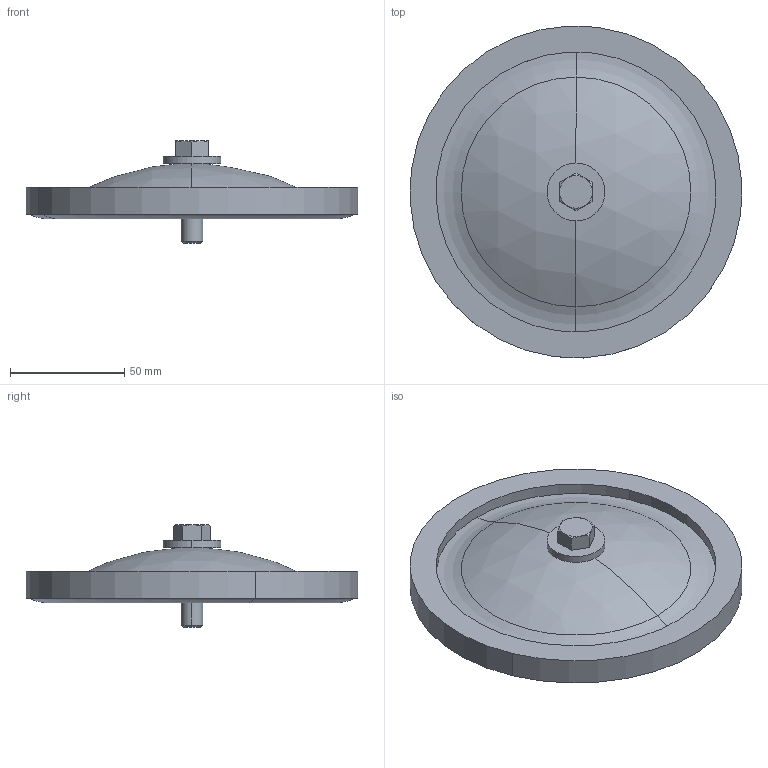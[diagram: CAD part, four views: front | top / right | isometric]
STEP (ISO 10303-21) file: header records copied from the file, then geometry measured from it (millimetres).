
FILE_DESCRIPTION (( 'STEP AP203' ), '1' );
FILE_NAME ('REC06K.STEP', '2015-01-07T19:56:12', ( '' ), ( '' ), 'SwSTEP 2.0', 'SolidWorks 2014', '' );
FILE_SCHEMA (( 'CONFIG_CONTROL_DESIGN' ));
Length unit declared in the file: inch
Products named in the file (1): REC06K
Bounding box: 145.53 x 145.53 x 44.91 mm (x, y, z)
Volume: 123144 mm3; surface area: 69619.8 mm2
Topology: 4 solids, 4 shells, 61 faces, 128 edges, 80 vertices
Faces by surface type: cylinder 22, plane 19, torus 8, cone 8, sphere 4
Entity records: 1783 total; most frequent: CARTESIAN_POINT 338, DIRECTION 320, ORIENTED_EDGE 256, AXIS2_PLACEMENT_3D 142, EDGE_CURVE 128, VERTEX_POINT 80, CIRCLE 80, EDGE_LOOP 72
